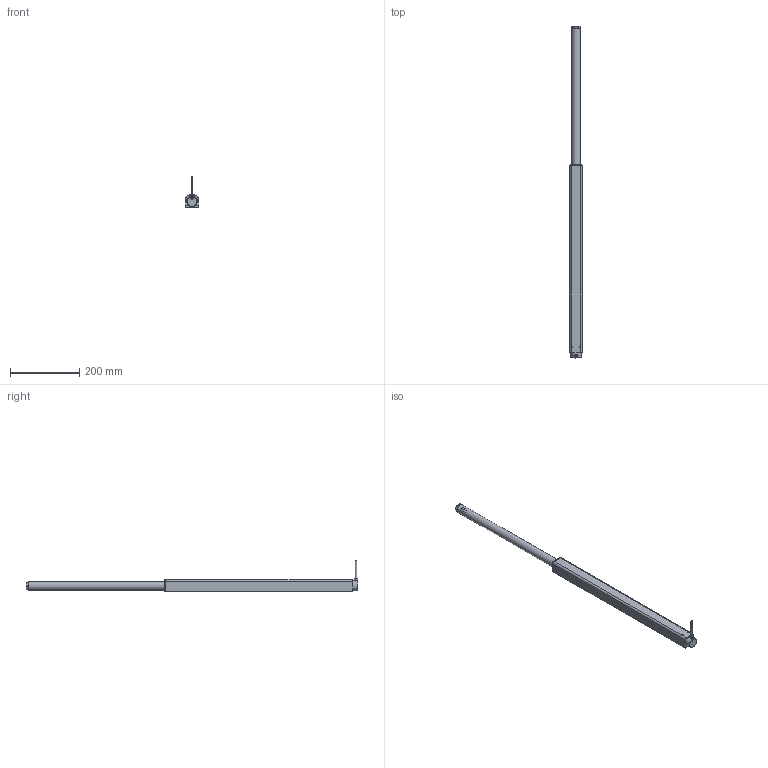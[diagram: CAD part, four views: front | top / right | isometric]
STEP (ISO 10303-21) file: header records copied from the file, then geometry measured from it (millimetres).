
FILE_DESCRIPTION(/* description */ ('Unknown'),/* implementation_level */ '2;1');
FILE_NAME(/* name */ '106.00184 Lineareinheit LA 1440 R_ausgefahren',/* time_stamp */ '2017-10-05T16:27:31+02:00',/* author */ ('Unknown'),/* organization */ ('Unknown'),/* preprocessor_version */ 'ST-DEVELOPER v16.7',/* originating_system */ 'DEX',/* authorisation */ $);
FILE_SCHEMA (('TECHNICAL_DATA_PACKAGING','AUTOMOTIVE_DESIGN {1 0 10303 214 3 1 1}'));
Products named in the file (11): 106.00184; 119.00004; 142.00014; 142.00021; 125.00021; 115.00001; 125.00043; 122.00018; 125.00051; 123.00004; 113.00002_70mm
Assembly tree (11 placements, depth 2):
  106.00184
    119.00004
    142.00014  x2
    142.00021
    125.00021
    115.00001
    125.00043
    122.00018
    125.00051
    123.00004
    113.00002_70mm
Bounding box: 35 x 957 x 91.75 mm (x, y, z)
Volume: 385879.4 mm3; surface area: 249081.5 mm2
Topology: 10 solids, 10 shells, 810 faces, 1896 edges, 1132 vertices
Faces by surface type: cylinder 280, bspline 224, plane 214, cone 50, torus 29, sphere 13
Full cylindrical faces by diameter (mm): 2.2 x1, 3.5 x2, 4 x7, 4.1 x1, 4.134 x4, 4.2 x1, 6.647 x1, 6.917 x2, 8 x2, 8.376 x1, 9 x1, 13.9 x2, 17.3 x1, 19 x2, 20.8 x3, 21 x1, 25 x1, 29.5 x2, 30.63 x1
Entity records: 76151 total; most frequent: CARTESIAN_POINT 59516, ORIENTED_EDGE 3508, DIRECTION 2671, EDGE_CURVE 1754, VERTEX_POINT 1077, AXIS2_PLACEMENT_3D 1047, FACE_BOUND 921, EDGE_LOOP 919
